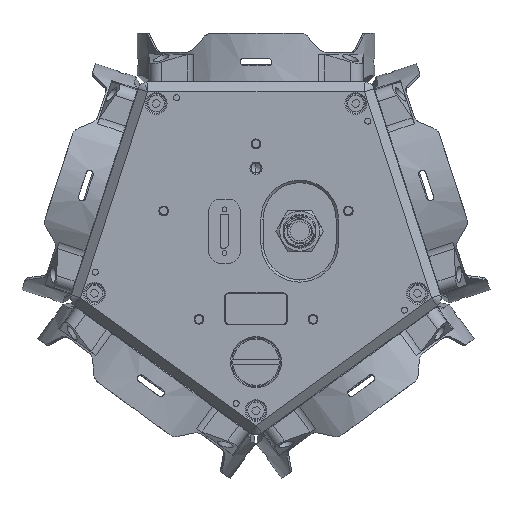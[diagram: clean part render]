
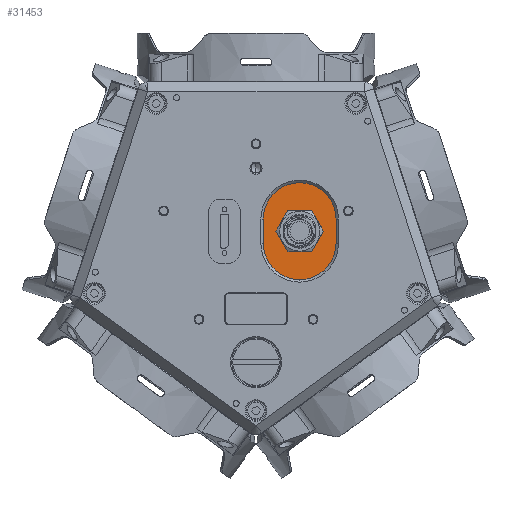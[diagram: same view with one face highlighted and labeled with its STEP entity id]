
A CAD part, front view. The second image highlights one B-rep face of the part: STEP entity #31453.
In plain terms, the highlighted planar face has unit normal (0, -1, 0).
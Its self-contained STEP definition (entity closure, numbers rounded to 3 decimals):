
#914 = EDGE_CURVE ( 'NONE', #70878, #43387, #49590, .T. ) ;
#1448 = DIRECTION ( 'NONE',  ( 0., -1., 0. ) ) ;
#2389 = DIRECTION ( 'NONE',  ( 0., 0., 1. ) ) ;
#4898 = DIRECTION ( 'NONE',  ( 0.5, 0., -0.866 ) ) ;
#5191 = DIRECTION ( 'NONE',  ( -1., 0., 0. ) ) ;
#5384 = AXIS2_PLACEMENT_3D ( 'NONE', #7845, #63120, #30050 ) ;
#6590 = ORIENTED_EDGE ( 'NONE', *, *, #35661, .T. ) ;
#6811 = EDGE_CURVE ( 'NONE', #57011, #48727, #14445, .T. ) ;
#7845 = CARTESIAN_POINT ( 'NONE',  ( 0., -50.5, 0. ) ) ;
#7883 = ORIENTED_EDGE ( 'NONE', *, *, #57942, .F. ) ;
#7918 = CARTESIAN_POINT ( 'NONE',  ( 33., -50.5, -1. ) ) ;
#10501 = VERTEX_POINT ( 'NONE', #47991 ) ;
#12696 = EDGE_CURVE ( 'NONE', #21273, #60252, #43873, .T. ) ;
#14445 = CIRCLE ( 'NONE', #69737, 15. ) ;
#14651 = CARTESIAN_POINT ( 'NONE',  ( 0., -50.5, -4.5 ) ) ;
#14689 = EDGE_LOOP ( 'NONE', ( #66468, #32880, #43228, #42468, #6590 ) ) ;
#14934 = VECTOR ( 'NONE', #50467, 1000. ) ;
#15131 = CARTESIAN_POINT ( 'NONE',  ( 18., -50.5, -1. ) ) ;
#15896 = CARTESIAN_POINT ( 'NONE',  ( 3., -50.5, -1. ) ) ;
#16021 = DIRECTION ( 'NONE',  ( 0.5, 0., 0.866 ) ) ;
#16362 = LINE ( 'NONE', #21564, #60370 ) ;
#16647 = LINE ( 'NONE', #17470, #14934 ) ;
#17149 = EDGE_CURVE ( 'NONE', #25171, #10501, #50246, .T. ) ;
#17470 = CARTESIAN_POINT ( 'NONE',  ( 27.815, -50.5, 4. ) ) ;
#18042 = FACE_OUTER_BOUND ( 'NONE', #14689, .T. ) ;
#18530 = VECTOR ( 'NONE', #4898, 1000. ) ;
#19271 = CARTESIAN_POINT ( 'NONE',  ( 18., -50.5, 9. ) ) ;
#19767 = CARTESIAN_POINT ( 'NONE',  ( 33., -50.5, -1. ) ) ;
#20626 = DIRECTION ( 'NONE',  ( 0., 0., -1. ) ) ;
#21273 = VERTEX_POINT ( 'NONE', #65388 ) ;
#21405 = DIRECTION ( 'NONE',  ( 0., 0., -1. ) ) ;
#21564 = CARTESIAN_POINT ( 'NONE',  ( 13.093, -50.5, 12.5 ) ) ;
#22252 = ORIENTED_EDGE ( 'NONE', *, *, #42265, .F. ) ;
#22329 = AXIS2_PLACEMENT_3D ( 'NONE', #15131, #53694, #20626 ) ;
#24383 = CARTESIAN_POINT ( 'NONE',  ( 13.093, -50.5, -4.5 ) ) ;
#24473 = PLANE ( 'NONE',  #5384 ) ;
#24813 = DIRECTION ( 'NONE',  ( 0., 0., -1. ) ) ;
#25171 = VERTEX_POINT ( 'NONE', #30328 ) ;
#25213 = VECTOR ( 'NONE', #53222, 1000. ) ;
#25482 = CIRCLE ( 'NONE', #37038, 15. ) ;
#27104 = EDGE_CURVE ( 'NONE', #38516, #70878, #16362, .T. ) ;
#27321 = ORIENTED_EDGE ( 'NONE', *, *, #36399, .F. ) ;
#27600 = LINE ( 'NONE', #7918, #55242 ) ;
#28983 = EDGE_LOOP ( 'NONE', ( #53771, #27321, #22252, #67858, #7883, #69918 ) ) ;
#30050 = DIRECTION ( 'NONE',  ( 0., 0., 1. ) ) ;
#30328 = CARTESIAN_POINT ( 'NONE',  ( 22.907, -50.5, -4.5 ) ) ;
#31430 = CARTESIAN_POINT ( 'NONE',  ( 33., -50.5, 9. ) ) ;
#31453 = ADVANCED_FACE ( 'NONE', ( #36161, #18042 ), #24473, .F. ) ;
#32880 = ORIENTED_EDGE ( 'NONE', *, *, #55442, .T. ) ;
#32987 = LINE ( 'NONE', #49307, #34711 ) ;
#34488 = CARTESIAN_POINT ( 'NONE',  ( 18., -50.5, -1. ) ) ;
#34711 = VECTOR ( 'NONE', #5191, 1000. ) ;
#35661 = EDGE_CURVE ( 'NONE', #48727, #21273, #71105, .T. ) ;
#36161 = FACE_BOUND ( 'NONE', #28983, .T. ) ;
#36399 = EDGE_CURVE ( 'NONE', #63350, #38516, #32987, .T. ) ;
#37038 = AXIS2_PLACEMENT_3D ( 'NONE', #34488, #1448, #40018 ) ;
#38516 = VERTEX_POINT ( 'NONE', #61350 ) ;
#40018 = DIRECTION ( 'NONE',  ( 0., 0., -1. ) ) ;
#41692 = VECTOR ( 'NONE', #21405, 1000. ) ;
#42265 = EDGE_CURVE ( 'NONE', #10501, #63350, #16647, .T. ) ;
#42468 = ORIENTED_EDGE ( 'NONE', *, *, #6811, .T. ) ;
#43228 = ORIENTED_EDGE ( 'NONE', *, *, #49883, .T. ) ;
#43387 = VERTEX_POINT ( 'NONE', #24383 ) ;
#43873 = CIRCLE ( 'NONE', #22329, 15. ) ;
#46912 = CARTESIAN_POINT ( 'NONE',  ( 18., -50.5, -16. ) ) ;
#47991 = CARTESIAN_POINT ( 'NONE',  ( 27.815, -50.5, 4. ) ) ;
#48438 = CARTESIAN_POINT ( 'NONE',  ( 3., -50.5, 9. ) ) ;
#48727 = VERTEX_POINT ( 'NONE', #48438 ) ;
#48828 = DIRECTION ( 'NONE',  ( -0.5, 0., -0.866 ) ) ;
#49307 = CARTESIAN_POINT ( 'NONE',  ( 0., -50.5, 12.5 ) ) ;
#49590 = LINE ( 'NONE', #71037, #18530 ) ;
#49883 = EDGE_CURVE ( 'NONE', #58827, #57011, #27600, .T. ) ;
#50246 = LINE ( 'NONE', #60393, #64992 ) ;
#50467 = DIRECTION ( 'NONE',  ( -0.5, 0., 0.866 ) ) ;
#50683 = CARTESIAN_POINT ( 'NONE',  ( 22.907, -50.5, 12.5 ) ) ;
#53222 = DIRECTION ( 'NONE',  ( 1., 0., 0. ) ) ;
#53694 = DIRECTION ( 'NONE',  ( 0., -1., 0. ) ) ;
#53771 = ORIENTED_EDGE ( 'NONE', *, *, #27104, .F. ) ;
#55242 = VECTOR ( 'NONE', #2389, 1000. ) ;
#55442 = EDGE_CURVE ( 'NONE', #60252, #58827, #25482, .T. ) ;
#56462 = CARTESIAN_POINT ( 'NONE',  ( 8.185, -50.5, 4. ) ) ;
#57011 = VERTEX_POINT ( 'NONE', #31430 ) ;
#57919 = DIRECTION ( 'NONE',  ( 0., -1., 0. ) ) ;
#57942 = EDGE_CURVE ( 'NONE', #43387, #25171, #67555, .T. ) ;
#58827 = VERTEX_POINT ( 'NONE', #19767 ) ;
#60252 = VERTEX_POINT ( 'NONE', #46912 ) ;
#60370 = VECTOR ( 'NONE', #48828, 1000. ) ;
#60393 = CARTESIAN_POINT ( 'NONE',  ( 22.907, -50.5, -4.5 ) ) ;
#61350 = CARTESIAN_POINT ( 'NONE',  ( 13.093, -50.5, 12.5 ) ) ;
#63120 = DIRECTION ( 'NONE',  ( 0., 1., 0. ) ) ;
#63350 = VERTEX_POINT ( 'NONE', #50683 ) ;
#64992 = VECTOR ( 'NONE', #16021, 1000. ) ;
#65388 = CARTESIAN_POINT ( 'NONE',  ( 3., -50.5, -1. ) ) ;
#66468 = ORIENTED_EDGE ( 'NONE', *, *, #12696, .T. ) ;
#67555 = LINE ( 'NONE', #14651, #25213 ) ;
#67858 = ORIENTED_EDGE ( 'NONE', *, *, #17149, .F. ) ;
#69737 = AXIS2_PLACEMENT_3D ( 'NONE', #19271, #57919, #24813 ) ;
#69918 = ORIENTED_EDGE ( 'NONE', *, *, #914, .F. ) ;
#70878 = VERTEX_POINT ( 'NONE', #56462 ) ;
#71037 = CARTESIAN_POINT ( 'NONE',  ( 8.185, -50.5, 4. ) ) ;
#71105 = LINE ( 'NONE', #15896, #41692 ) ;
